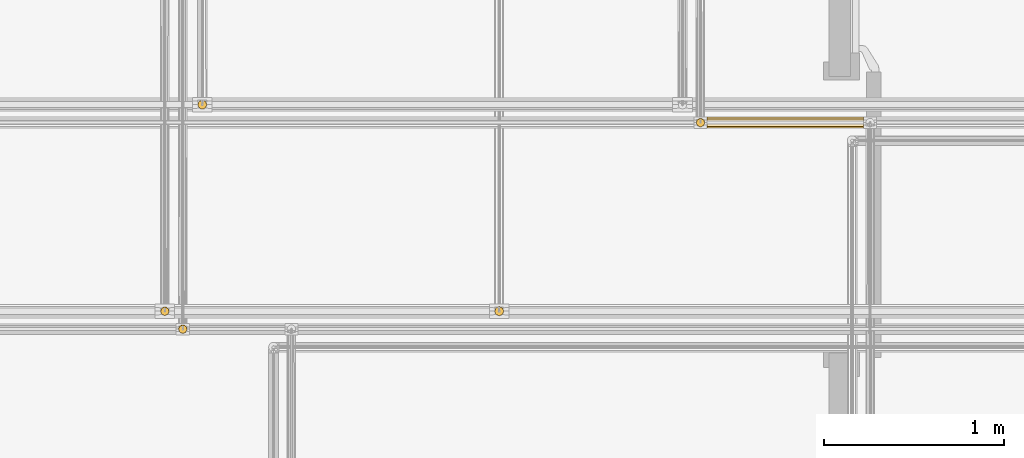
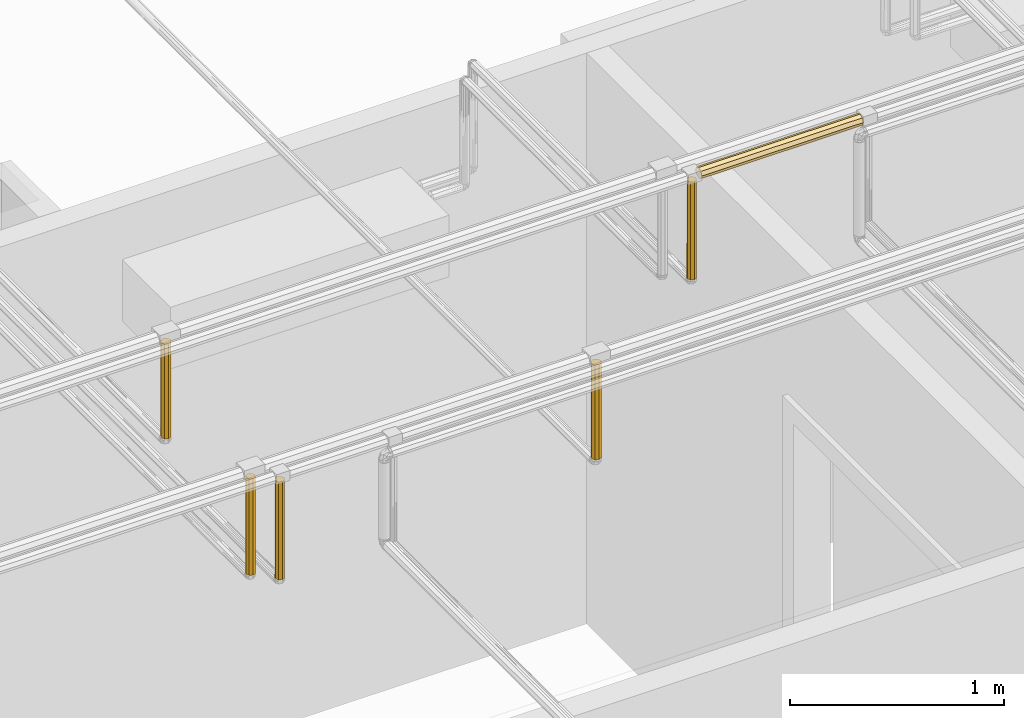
# One storey, part 158 of 652: 6 coverings.
"""IFC2X3 building model written with IfcOpenShell, lengths in millimetres."""

from ifc_helpers import new_model, entity, si_unit, converted_unit, direction, frame, origin, place, context, subcontext, project, spatial, faceted_brep, material, type_object, element, save


model = new_model("IFC2X3")

# Units and contexts
model_context = context("Model", 3, precision=0.01, world=frame((0.0, 0.0, 308426.39999999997)), true_north=direction((6.123233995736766e-17, 1.0)))
plan_context = context("Plan", 3, precision=0.01, world=frame((0.0, 0.0, 308426.39999999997)), true_north=direction((6.123233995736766e-17, 1.0)))
body_context = subcontext(model_context, "Body", "Model", "MODEL_VIEW")
ifc_project = project(units=[si_unit("LENGTHUNIT", "METRE", prefix="MILLI"), si_unit("AREAUNIT", "SQUARE_METRE"), si_unit("VOLUMEUNIT", "CUBIC_METRE"), converted_unit("PLANEANGLEUNIT", "DEGREE", entity("IfcPlaneAngleMeasure", 0.017453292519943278), si_unit("PLANEANGLEUNIT", "RADIAN"), dimensions=[0, 0, 0, 0, 0, 0, 0])], contexts=[model_context, plan_context])

# Site, building, storey
site_placement = place(None, origin())
site = spatial("IfcSite", under=ifc_project, at=site_placement, Name="Default", CompositionType="ELEMENT")
building_placement = place(site_placement, origin())
building = spatial("IfcBuilding", under=site, at=building_placement, CompositionType="ELEMENT")
storey_placement = place(building_placement, frame((0.0, 0.0, 1730.6999999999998)))
storey = spatial("IfcBuildingStorey", under=building, at=storey_placement, Name="EG_Produktion_FFB", CompositionType="ELEMENT", Elevation=1730.6999999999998)

# Coverings
ifc_material = material(Name="Dämmung - Armaflex-Schlauch")
covering_type = type_object("IfcCoveringType", Name="Rohrdämmung außen:Armaflex-Schlauch", PredefinedType="INSULATION")
covering_1_placement = place(storey_placement, frame((24902.836827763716, 60968.29222776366, 3868.292227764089)))
element("IfcCovering", 1, at=covering_1_placement, inside=storey, type_object=covering_type, material=ifc_material, Name="Rohrdämmung außen:Armaflex-Schlauch", ObjectType="Rohrdämmung außen:Armaflex-Schlauch", PredefinedType="INSULATION", context=body_context, shape_type="Brep", body=[
    faceted_brep([(870.1149222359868, 61.82027223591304, 31.707772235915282), (870.1149222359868, 60.09388636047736, 35.87563643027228), (870.1149222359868, 57.410398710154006, 42.354148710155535), (870.1149222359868, 55.205461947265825, 47.677336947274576), (870.1149222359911, 53.000525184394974, 53.000525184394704), (870.1149222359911, 47.67733694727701, 55.2054619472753), (870.1149222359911, 42.35414871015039, 57.410398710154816), (870.1149222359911, 37.03096047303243, 59.615335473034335), (870.1149222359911, 31.70777223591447, 61.820272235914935), (870.1149222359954, 27.539908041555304, 60.09388636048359), (870.1149222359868, 21.061395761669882, 57.410398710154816), (870.1149222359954, 15.738207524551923, 55.2054619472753), (870.1149222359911, 10.415019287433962, 53.000525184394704), (870.1149222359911, 8.21008252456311, 47.67733694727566), (870.1149222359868, 6.005145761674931, 42.354148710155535), (870.1149222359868, 3.800208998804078, 37.03096047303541), (870.1149222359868, 1.5952722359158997, 31.707772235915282), (870.1149222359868, 3.8002089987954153, 26.384583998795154), (870.1149222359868, 6.005145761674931, 21.061395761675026), (870.1149222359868, 8.210082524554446, 15.738207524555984), (870.1149222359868, 10.415019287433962, 10.415019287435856), (870.1149222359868, 15.738207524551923, 8.210082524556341), (870.1149222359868, 21.061395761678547, 6.005145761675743), (870.1149222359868, 26.384583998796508, 3.8002089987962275), (870.1149222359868, 31.70777223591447, 1.595272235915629), (870.1149222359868, 35.87563643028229, 3.321658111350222), (870.1149222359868, 42.35414871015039, 6.005145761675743), (870.1149222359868, 47.67733694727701, 8.210082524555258), (870.1149222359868, 53.000525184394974, 10.415019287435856), (870.1149222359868, 55.20546194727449, 15.7382075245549), (870.1149222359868, 57.410398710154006, 21.061395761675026), (870.1149222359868, 59.615335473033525, 26.384583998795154), (0.0, 47.677336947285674, 8.2100825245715), (0.0, 42.35414871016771, 6.005145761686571), (0.0, 37.03096047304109, 3.800208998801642), (0.0, 31.70777223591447, 1.5952722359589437), (0.0, 23.37204384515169, 5.048043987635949), (0.0, 16.89353156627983, 7.731531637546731), (0.0, 10.415019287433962, 10.41501928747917), (0.0, 8.210082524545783, 15.738207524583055), (0.0, 6.005145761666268, 21.061395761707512), (0.0, 3.8002089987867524, 26.384583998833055), (0.0, 1.5952722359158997, 31.707772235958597), (0.0, 5.048043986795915, 40.04350062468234), (0.0, 7.731531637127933, 46.52201290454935), (0.0, 10.415019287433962, 53.00052518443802), (0.0, 15.738207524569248, 55.205461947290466), (0.0, 21.06139576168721, 57.410398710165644), (0.0, 26.38458399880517, 59.61533547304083), (0.0, 31.70777223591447, 61.82027223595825), (0.0, 40.043500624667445, 58.36750048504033), (0.0, 46.52201290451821, 55.6840128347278), (0.0, 53.000525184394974, 53.00052518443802), (0.0, 55.205461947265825, 47.67733694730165), (0.0, 57.410398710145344, 42.35414871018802), (0.0, 59.61533547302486, 37.03096047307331), (0.0, 61.82027223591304, 31.707772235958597), (0.0, 58.367500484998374, 23.372043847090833), (0.0, 55.684012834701, 16.893531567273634), (0.0, 53.000525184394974, 10.41501928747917)], [[[0, 1, 2, 3, 4, 5, 6, 7, 8, 9, 10, 11, 12, 13, 14, 15, 16, 17, 18, 19, 20, 21, 22, 23, 24, 25, 26, 27, 28, 29, 30, 31]], [[32, 33, 34, 35, 36, 37, 38, 39, 40, 41, 42, 43, 44, 45, 46, 47, 48, 49, 50, 51, 52, 53, 54, 55, 56, 57, 58, 59]], [[40, 39, 38, 20, 19, 18, 17, 16, 42, 41]], [[36, 35, 24, 23, 22, 21, 20, 38, 37]], [[33, 32, 59, 28, 27, 26, 25, 24, 35, 34]], [[28, 59, 58, 57, 56, 0, 31, 30, 29]], [[54, 53, 52, 4, 3, 2, 1, 0, 56, 55]], [[4, 52, 51, 50, 49, 8, 7, 6, 5]], [[47, 46, 45, 12, 11, 10, 9, 8, 49, 48]], [[12, 45, 44, 43, 42, 16, 15, 14, 13]]]),
])
covering_2_placement = place(storey_placement, frame((21858.505862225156, 59924.64222775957, 3316.3549777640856)))
element("IfcCovering", 2, at=covering_2_placement, inside=storey, type_object=covering_type, material=ifc_material, Name="Rohrdämmung außen:Armaflex-Schlauch", ObjectType="Rohrdämmung außen:Armaflex-Schlauch", PredefinedType="INSULATION", context=body_context, shape_type="Brep", body=[
    faceted_brep([(43.90036590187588, 12.75580356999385, 551.3938722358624), (45.64033467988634, 16.956459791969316, 551.3938722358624), (47.38030345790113, 21.15711601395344, 551.3938722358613), (49.12027223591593, 25.357772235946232, 551.3938722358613), (47.38030345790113, 29.55842845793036, 551.3938722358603), (45.64033467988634, 33.75908467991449, 551.3938722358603), (43.90036590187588, 37.95974090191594, 551.3938722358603), (42.16039712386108, 42.16039712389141, 551.3938722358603), (37.959740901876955, 43.900365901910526, 551.3938722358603), (33.759084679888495, 45.64033467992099, 551.3938722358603), (29.55842845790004, 47.380303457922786, 551.3938722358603), (25.357772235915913, 49.12027223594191, 551.3938722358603), (21.157116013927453, 47.380303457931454, 551.3938722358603), (16.956459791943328, 45.64033467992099, 551.3938722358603), (12.755803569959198, 43.900365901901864, 551.3938722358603), (8.55514734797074, 42.16039712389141, 551.3938722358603), (6.815178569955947, 37.959740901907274, 551.3938722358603), (5.075209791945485, 33.75908467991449, 551.3938722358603), (3.5105370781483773, 29.981630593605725, 551.3938722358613), (1.5952722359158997, 25.357772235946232, 551.3938722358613), (3.5105370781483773, 20.733913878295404, 551.3938722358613), (5.075209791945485, 16.956459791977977, 551.3938722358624), (6.815178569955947, 12.75580356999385, 551.3938722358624), (8.55514734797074, 8.55514734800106, 551.3938722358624), (12.755803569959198, 6.815178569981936, 551.3938722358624), (16.956459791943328, 5.075209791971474, 551.3938722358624), (21.157116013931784, 3.335241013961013, 551.3938722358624), (25.357772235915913, 1.5952722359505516, 551.3938722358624), (29.98163059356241, 3.5105370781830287, 551.3938722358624), (33.759084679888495, 5.075209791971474, 551.3938722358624), (37.959740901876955, 6.815178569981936, 551.3938722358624), (42.16039712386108, 8.55514734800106, 551.3938722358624), (3.7416299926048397, 35.22685531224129, 1.5952722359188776), (6.764379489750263, 39.267438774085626, 1.5952722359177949), (9.787128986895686, 43.30802223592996, 1.5952722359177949), (40.92841548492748, 43.30802223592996, 1.5952722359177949), (43.95116498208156, 39.267438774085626, 1.5952722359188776), (46.97391447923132, 35.22685531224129, 1.5952722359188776), (48.047093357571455, 30.292313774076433, 1.5952722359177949), (49.12027223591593, 25.357772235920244, 1.5952722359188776), (47.205007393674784, 20.73391387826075, 1.5952722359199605), (45.289742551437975, 16.110055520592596, 1.5952722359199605), (43.7250698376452, 12.332601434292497, 1.5952722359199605), (42.16039712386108, 8.55514734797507, 1.5952722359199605), (37.95974090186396, 6.815178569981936, 1.5952722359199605), (33.759084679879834, 5.075209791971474, 1.5952722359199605), (29.558428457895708, 3.335241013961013, 1.5952722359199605), (25.357772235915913, 1.5952722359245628, 1.5952722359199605), (20.733913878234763, 3.510537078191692, 1.5952722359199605), (16.11005552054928, 5.425801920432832, 1.5952722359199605), (12.332601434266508, 6.990474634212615, 1.5952722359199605), (8.55514734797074, 8.55514734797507, 1.5952722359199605), (6.815178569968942, 12.755803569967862, 1.5952722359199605), (5.075209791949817, 16.95645979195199, 1.5952722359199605), (3.335241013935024, 21.157116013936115, 1.5952722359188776), (1.5952722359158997, 25.357772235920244, 1.5952722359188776), (2.6684511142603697, 30.2923137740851, 1.5952722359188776), (33.667814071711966, 47.61983887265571, 5.907088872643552), (37.29811477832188, 45.46393055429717, 3.7511805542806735), (29.512793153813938, 48.37005555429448, 6.65730555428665), (25.357772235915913, 49.12027223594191, 7.40752223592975), (21.202751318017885, 48.37005555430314, 6.657305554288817), (17.04773040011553, 47.61983887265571, 5.907088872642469), (13.417429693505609, 45.46393055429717, 3.7511805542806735)], [[[0, 1, 2, 3, 4, 5, 6, 7, 8, 9, 10, 11, 12, 13, 14, 15, 16, 17, 18, 19, 20, 21, 22, 23, 24, 25, 26, 27, 28, 29, 30, 31]], [[32, 33, 34, 35, 36, 37, 38, 39, 40, 41, 42, 43, 44, 45, 46, 47, 48, 49, 50, 51, 52, 53, 54, 55, 56]], [[39, 4, 3]], [[9, 57, 10]], [[4, 39, 38]], [[38, 5, 4]], [[35, 7, 36]], [[8, 35, 58]], [[58, 57, 9]], [[59, 60, 11]], [[37, 36, 6]], [[36, 7, 6]], [[37, 6, 5]], [[10, 57, 59]], [[7, 35, 8]], [[38, 37, 5]], [[58, 9, 8]], [[59, 11, 10]], [[60, 61, 11]], [[55, 19, 56]], [[12, 61, 62]], [[32, 16, 33]], [[63, 13, 62]], [[15, 34, 33]], [[32, 56, 17]], [[17, 56, 19, 18]], [[11, 61, 12]], [[33, 16, 15]], [[32, 17, 16]], [[13, 63, 14]], [[34, 14, 63]], [[12, 62, 13]], [[14, 34, 15]], [[47, 27, 26, 25, 24, 23, 51, 50, 49, 48]], [[22, 21, 20, 19, 55, 54, 53, 52, 51, 23]], [[39, 3, 2, 1, 0, 31, 43, 42, 41, 40]], [[30, 29, 28, 27, 47, 46, 45, 44, 43, 31]], [[57, 58, 35, 34, 63, 62, 61, 60, 59]]]),
])
covering_3_placement = place(storey_placement, frame((21958.505862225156, 59824.6422277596, 3316.3549777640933)))
element("IfcCovering", 3, at=covering_3_placement, inside=storey, type_object=covering_type, material=ifc_material, Name="Rohrdämmung außen:Armaflex-Schlauch", ObjectType="Rohrdämmung außen:Armaflex-Schlauch", PredefinedType="INSULATION", context=body_context, shape_type="Brep", body=[
    faceted_brep([(43.90036590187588, 12.755803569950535, 559.6234722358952), (45.64033467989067, 16.956459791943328, 559.6234722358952), (47.23325303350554, 20.80210488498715, 559.6234722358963), (49.12027223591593, 25.35777223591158, 559.6234722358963), (47.38030345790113, 29.558428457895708, 559.6234722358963), (45.64033467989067, 33.759084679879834, 559.6234722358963), (43.900365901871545, 37.95974090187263, 559.6234722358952), (42.16039712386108, 42.160397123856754, 559.6234722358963), (37.959740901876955, 43.90036590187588, 559.6234722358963), (33.75908467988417, 45.640334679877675, 559.6234722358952), (29.55842845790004, 47.3803034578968, 559.6234722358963), (25.357772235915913, 49.12027223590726, 559.6234722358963), (21.157116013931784, 47.3803034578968, 559.6234722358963), (16.956459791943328, 45.64033467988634, 559.6234722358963), (12.755803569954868, 43.90036590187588, 559.6234722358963), (8.55514734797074, 42.160397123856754, 559.6234722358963), (6.815178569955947, 37.95974090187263, 559.6234722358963), (5.0752097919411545, 33.759084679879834, 559.6234722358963), (3.4822914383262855, 29.913439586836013, 559.6234722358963), (1.5952722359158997, 25.35777223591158, 559.6234722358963), (3.482291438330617, 20.80210488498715, 559.6234722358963), (5.0752097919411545, 16.956459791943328, 559.6234722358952), (6.815178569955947, 12.755803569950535, 559.6234722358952), (8.55514734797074, 8.55514734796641, 559.6234722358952), (12.755803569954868, 6.815178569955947, 559.6234722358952), (16.956459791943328, 5.075209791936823, 559.6234722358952), (20.80210488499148, 3.482291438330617, 559.6234722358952), (25.357772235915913, 1.5952722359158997, 559.6234722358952), (29.913439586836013, 3.482291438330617, 559.6234722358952), (33.759084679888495, 5.075209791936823, 559.6234722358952), (37.959740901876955, 6.815178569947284, 559.6234722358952), (42.16039712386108, 8.55514734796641, 559.6234722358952), (40.928415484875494, 43.30802223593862, 1.5952722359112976), (43.95116498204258, 39.26743877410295, 1.5952722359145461), (46.97391447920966, 35.226855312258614, 1.5952722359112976), (48.04709335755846, 30.2923137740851, 1.5952722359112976), (49.12027223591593, 25.357772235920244, 1.5952722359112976), (47.23325303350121, 20.80210488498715, 1.5952722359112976), (45.34623383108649, 16.246437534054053, 1.5952722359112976), (43.75331547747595, 12.40079244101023, 1.5952722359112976), (42.16039712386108, 8.55514734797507, 1.5952722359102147), (37.959740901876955, 6.815178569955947, 1.5952722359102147), (33.75908467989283, 5.075209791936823, 1.5952722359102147), (29.55842845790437, 3.3352410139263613, 1.5952722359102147), (25.357772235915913, 1.5952722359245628, 1.5952722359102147), (20.80210488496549, 3.48229143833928, 1.5952722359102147), (16.24643753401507, 5.36931064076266, 1.5952722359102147), (12.400792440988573, 6.962228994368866, 1.5952722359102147), (8.55514734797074, 8.55514734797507, 1.5952722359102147), (6.815178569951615, 12.755803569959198, 1.5952722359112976), (5.0752097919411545, 16.956459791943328, 1.5952722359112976), (3.3352410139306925, 21.157116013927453, 1.5952722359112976), (1.5952722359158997, 25.357772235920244, 1.5952722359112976), (2.6684511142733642, 30.2923137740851, 1.5952722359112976), (3.741629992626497, 35.226855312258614, 1.5952722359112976), (6.764379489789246, 39.26743877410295, 1.5952722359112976), (9.787128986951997, 43.30802223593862, 1.5952722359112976), (33.66781407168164, 47.61983887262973, 5.907088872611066), (37.2981147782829, 45.46393055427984, 3.7511805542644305), (29.51279315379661, 48.3700555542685, 6.657305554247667), (25.357772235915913, 49.12027223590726, 7.407522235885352), (21.20275131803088, 48.3700555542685, 6.657305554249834), (17.047730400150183, 47.61983887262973, 5.907088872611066), (13.417429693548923, 45.46393055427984, 3.751180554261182)], [[[0, 1, 2, 3, 4, 5, 6, 7, 8, 9, 10, 11, 12, 13, 14, 15, 16, 17, 18, 19, 20, 21, 22, 23, 24, 25, 26, 27, 28, 29, 30, 31]], [[32, 33, 34, 35, 36, 37, 38, 39, 40, 41, 42, 43, 44, 45, 46, 47, 48, 49, 50, 51, 52, 53, 54, 55, 56]], [[36, 4, 3]], [[9, 57, 10]], [[4, 36, 35]], [[35, 5, 4]], [[32, 7, 33]], [[8, 32, 58]], [[58, 57, 9]], [[59, 60, 11]], [[34, 33, 6]], [[33, 7, 6]], [[34, 6, 5]], [[10, 57, 59]], [[7, 32, 8]], [[35, 34, 5]], [[58, 9, 8]], [[59, 11, 10]], [[60, 61, 11]], [[53, 52, 18]], [[12, 61, 62]], [[54, 16, 55]], [[63, 13, 62]], [[15, 56, 55]], [[54, 53, 17]], [[17, 53, 18]], [[11, 61, 12]], [[55, 16, 15]], [[52, 19, 18]], [[54, 17, 16]], [[13, 63, 14]], [[56, 14, 63]], [[12, 62, 13]], [[14, 56, 15]], [[27, 26, 25, 24, 23, 48, 47, 46, 45, 44]], [[22, 21, 20, 19, 52, 51, 50, 49, 48, 23]], [[3, 2, 1, 0, 31, 40, 39, 38, 37, 36]], [[30, 29, 28, 27, 44, 43, 42, 41, 40, 31]], [[32, 56, 63, 62, 61, 60, 59, 57, 58]]]),
])
covering_4_placement = place(storey_placement, frame((23718.239701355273, 59923.05472775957, 3323.371727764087)))
element("IfcCovering", 4, at=covering_4_placement, inside=storey, type_object=covering_type, material=ifc_material, Name="Rohrdämmung außen:Armaflex-Schlauch", ObjectType="Rohrdämmung außen:Armaflex-Schlauch", PredefinedType="INSULATION", context=body_context, shape_type="Brep", body=[
    faceted_brep([(52.29527223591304, 26.94527223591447, 542.5038722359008), (50.15022265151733, 32.12388003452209, 542.5038722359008), (48.58285068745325, 35.90785068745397, 542.5038722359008), (46.7266399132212, 40.38913991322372, 542.5038722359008), (44.87042913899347, 44.87042913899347, 542.5038722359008), (40.38913991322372, 46.7266399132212, 542.5038722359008), (35.90785068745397, 48.582850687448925, 542.5038722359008), (31.42656146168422, 50.43906146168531, 542.5038722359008), (26.94527223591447, 52.29527223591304, 542.5038722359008), (22.463983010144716, 50.43906146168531, 542.5038722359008), (17.982693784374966, 48.582850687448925, 542.5038722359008), (13.501404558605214, 46.7266399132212, 542.5038722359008), (9.020115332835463, 44.87042913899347, 542.5038722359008), (7.1639045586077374, 40.38913991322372, 542.5038722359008), (5.30769378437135, 35.90785068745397, 542.5038722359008), (3.4514830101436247, 31.42656146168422, 542.5038722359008), (1.5952722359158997, 26.94527223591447, 542.5038722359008), (3.7403217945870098, 21.766664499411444, 542.5038722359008), (5.307693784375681, 17.982693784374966, 542.5038722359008), (7.1639045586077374, 13.501404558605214, 542.5038722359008), (9.020115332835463, 9.020115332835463, 542.5038722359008), (13.501404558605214, 7.163904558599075, 542.5038722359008), (17.982693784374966, 5.307693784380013, 542.5038722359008), (22.463983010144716, 3.4514830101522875, 542.5038722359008), (26.94527223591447, 1.5952722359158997, 542.5038722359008), (32.12387997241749, 3.7403217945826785, 542.5038722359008), (35.90785068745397, 5.307693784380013, 542.5038722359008), (40.38913991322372, 7.1639045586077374, 542.5038722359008), (44.87042913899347, 9.020115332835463, 542.5038722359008), (46.7266399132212, 13.501404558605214, 542.5038722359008), (48.58285068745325, 17.982693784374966, 542.5038722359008), (50.43906146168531, 22.463983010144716, 542.5038722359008), (31.33519376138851, 51.91227223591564, 1.595272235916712), (38.84516070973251, 47.5816860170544, 1.595272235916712), (46.355127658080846, 43.251099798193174, 1.595272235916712), (48.437184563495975, 37.53580778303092, 1.595272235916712), (50.366228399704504, 32.240540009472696, 1.595272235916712), (52.29527223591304, 26.94527223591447, 1.595272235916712), (50.15022267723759, 21.76666449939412, 1.595272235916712), (48.005173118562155, 16.588056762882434, 1.595272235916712), (44.87042913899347, 9.020115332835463, 1.595272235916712), (40.38913991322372, 7.1639045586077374, 1.595272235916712), (35.90785068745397, 5.307693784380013, 1.595272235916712), (31.42656146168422, 3.4514830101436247, 1.595272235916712), (26.94527223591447, 1.5952722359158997, 1.595272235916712), (21.766664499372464, 3.7403217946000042, 1.595272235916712), (16.58805676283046, 5.885371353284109, 1.595272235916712), (9.020115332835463, 9.020115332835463, 1.595272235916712), (7.163904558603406, 13.501404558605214, 1.595272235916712), (5.307693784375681, 17.982693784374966, 1.595272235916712), (3.4514830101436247, 22.463983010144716, 1.595272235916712), (1.5952722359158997, 26.94527223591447, 1.595272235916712), (3.5243160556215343, 32.2405399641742, 1.595272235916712), (4.565344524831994, 35.09818601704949, 1.595272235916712), (6.0503806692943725, 39.17464290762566, 1.595272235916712), (7.535416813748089, 43.251099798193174, 1.595272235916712), (15.045383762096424, 47.5816860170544, 1.595272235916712), (22.55535071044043, 51.91227223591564, 1.595272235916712), (29.148570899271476, 52.19934072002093, 1.8823407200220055), (26.94527223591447, 52.29527223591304, 1.978272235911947), (24.74197357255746, 52.19934072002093, 1.8823407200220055)], [[[0, 1, 2, 3, 4, 5, 6, 7, 8, 9, 10, 11, 12, 13, 14, 15, 16, 17, 18, 19, 20, 21, 22, 23, 24, 25, 26, 27, 28, 29, 30, 31]], [[32, 33, 34, 35, 36, 37, 38, 39, 40, 41, 42, 43, 44, 45, 46, 47, 48, 49, 50, 51, 52, 53, 54, 55, 56, 57]], [[3, 2, 35]], [[35, 2, 36]], [[36, 2, 1, 0]], [[58, 7, 32]], [[33, 32, 6]], [[35, 34, 3]], [[8, 58, 59]], [[33, 6, 5, 4]], [[7, 6, 32]], [[34, 4, 3]], [[33, 4, 34]], [[36, 0, 37]], [[7, 58, 8]], [[57, 10, 9]], [[54, 53, 14]], [[9, 60, 57]], [[10, 57, 56]], [[54, 14, 13]], [[51, 16, 15]], [[53, 15, 14]], [[13, 55, 54]], [[56, 12, 11, 10]], [[15, 53, 52, 51]], [[60, 8, 59]], [[12, 56, 55]], [[12, 55, 13]], [[8, 60, 9]], [[44, 24, 23, 22, 21, 20, 47, 46, 45]], [[19, 18, 17, 16, 51, 50, 49, 48, 47, 20]], [[37, 0, 31, 30, 29, 28, 40, 39, 38]], [[27, 26, 25, 24, 44, 43, 42, 41, 40, 28]], [[57, 60, 59, 58, 32]]]),
])
covering_5_placement = place(storey_placement, frame((24840.430805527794, 60974.642227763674, 3316.3549777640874)))
element("IfcCovering", 5, at=covering_5_placement, inside=storey, type_object=covering_type, material=ifc_material, Name="Rohrdämmung außen:Armaflex-Schlauch", ObjectType="Rohrdämmung außen:Armaflex-Schlauch", PredefinedType="INSULATION", context=body_context, shape_type="Brep", body=[
    faceted_brep([(43.90036590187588, 12.755803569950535, 559.6234722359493), (45.64033467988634, 16.956459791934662, 559.6234722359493), (47.23325303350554, 20.80210488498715, 559.6234722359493), (49.12027223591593, 25.35777223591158, 559.6234722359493), (47.38030345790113, 29.55842845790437, 559.6234722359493), (45.64033467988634, 33.759084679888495, 559.6234722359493), (43.90036590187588, 37.95974090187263, 559.6234722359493), (42.16039712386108, 42.160397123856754, 559.6234722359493), (37.95974090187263, 43.90036590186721, 559.6234722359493), (33.759084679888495, 45.640334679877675, 559.6234722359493), (29.55842845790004, 47.38030345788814, 559.6234722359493), (25.357772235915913, 49.12027223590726, 559.6234722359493), (21.157116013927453, 47.3803034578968, 559.6234722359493), (16.956459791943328, 45.640334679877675, 559.6234722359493), (12.755803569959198, 43.90036590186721, 559.6234722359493), (8.55514734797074, 42.160397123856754, 559.6234722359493), (6.815178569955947, 37.95974090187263, 559.6234722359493), (5.075209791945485, 33.759084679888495, 559.6234722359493), (3.482291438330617, 29.913439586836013, 559.6234722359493), (1.5952722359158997, 25.35777223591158, 559.6234722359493), (3.482291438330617, 20.80210488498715, 559.6234722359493), (5.075209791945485, 16.956459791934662, 559.6234722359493), (6.815178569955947, 12.755803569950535, 559.6234722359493), (8.55514734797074, 8.55514734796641, 559.6234722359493), (12.755803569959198, 6.815178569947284, 559.6234722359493), (16.956459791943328, 5.075209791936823, 559.6234722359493), (20.80210488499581, 3.482291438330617, 559.6234722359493), (25.357772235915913, 1.5952722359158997, 559.6234722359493), (29.913439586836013, 3.482291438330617, 559.6234722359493), (33.759084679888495, 5.075209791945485, 559.6234722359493), (37.95974090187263, 6.815178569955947, 559.6234722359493), (42.16039712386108, 8.55514734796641, 559.6234722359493), (40.928415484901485, 43.30802223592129, 1.595272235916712), (43.9511649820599, 39.26743877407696, 1.595272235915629), (46.97391447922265, 35.22685531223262, 1.595272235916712), (48.04709335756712, 30.292313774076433, 1.595272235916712), (49.12027223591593, 25.35777223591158, 1.595272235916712), (47.23325303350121, 20.802104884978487, 1.595272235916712), (45.346233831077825, 16.24643753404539, 1.595272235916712), (43.753315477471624, 12.40079244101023, 1.595272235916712), (42.16039712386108, 8.55514734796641, 1.595272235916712), (37.95974090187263, 6.815178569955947, 1.595272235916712), (33.759084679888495, 5.075209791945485, 1.595272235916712), (29.55842845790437, 3.335241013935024, 1.595272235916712), (25.357772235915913, 1.5952722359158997, 1.595272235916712), (20.80210488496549, 3.48229143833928, 1.595272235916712), (16.24643753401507, 5.369310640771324, 1.595272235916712), (12.400792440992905, 6.962228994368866, 1.595272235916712), (8.55514734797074, 8.55514734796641, 1.595272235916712), (6.815178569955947, 12.755803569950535, 1.595272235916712), (5.075209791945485, 16.956459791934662, 1.595272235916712), (3.3352410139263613, 21.157116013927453, 1.595272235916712), (1.5952722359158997, 25.35777223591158, 1.595272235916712), (2.6684511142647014, 30.292313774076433, 1.595272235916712), (3.7416299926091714, 35.22685531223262, 1.595272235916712), (6.764379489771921, 39.26743877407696, 1.595272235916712), (9.78712898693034, 43.30802223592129, 1.595272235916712), (33.667814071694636, 47.61983887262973, 5.907088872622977), (37.2981147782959, 45.46393055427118, 3.751180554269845), (29.512793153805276, 48.3700555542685, 6.657305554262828), (25.357772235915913, 49.12027223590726, 7.407522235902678), (21.20275131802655, 48.37005555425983, 6.657305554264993), (17.047730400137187, 47.61983887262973, 5.907088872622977), (13.417429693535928, 45.46393055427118, 3.751180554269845)], [[[0, 1, 2, 3, 4, 5, 6, 7, 8, 9, 10, 11, 12, 13, 14, 15, 16, 17, 18, 19, 20, 21, 22, 23, 24, 25, 26, 27, 28, 29, 30, 31]], [[32, 33, 34, 35, 36, 37, 38, 39, 40, 41, 42, 43, 44, 45, 46, 47, 48, 49, 50, 51, 52, 53, 54, 55, 56]], [[36, 4, 3]], [[9, 57, 10]], [[4, 36, 35]], [[35, 5, 4]], [[32, 7, 33]], [[8, 32, 58]], [[58, 57, 9]], [[59, 60, 11]], [[34, 33, 6]], [[33, 7, 6]], [[34, 6, 5]], [[10, 57, 59]], [[7, 32, 8]], [[35, 34, 5]], [[58, 9, 8]], [[59, 11, 10]], [[60, 61, 11]], [[53, 52, 18]], [[12, 61, 62]], [[54, 16, 55]], [[63, 13, 62]], [[15, 56, 55]], [[54, 53, 17]], [[17, 53, 18]], [[11, 61, 12]], [[55, 16, 15]], [[52, 19, 18]], [[54, 17, 16]], [[13, 63, 14]], [[56, 14, 63]], [[12, 62, 13]], [[14, 56, 15]], [[27, 26, 25, 24, 23, 48, 47, 46, 45, 44]], [[22, 21, 20, 19, 52, 51, 50, 49, 48, 23]], [[3, 2, 1, 0, 31, 40, 39, 38, 37, 36]], [[30, 29, 28, 27, 44, 43, 42, 41, 40, 31]], [[57, 58, 32, 56, 63, 62, 61, 60, 59]]]),
])
covering_6_placement = place(storey_placement, frame((22065.367160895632, 61073.05472776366, 3323.3717277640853)))
element("IfcCovering", 6, at=covering_6_placement, inside=storey, type_object=covering_type, material=ifc_material, Name="Rohrdämmung außen:Armaflex-Schlauch", ObjectType="Rohrdämmung außen:Armaflex-Schlauch", PredefinedType="INSULATION", context=body_context, shape_type="Brep", body=[
    faceted_brep([(52.29527223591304, 26.94527223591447, 542.5038722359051), (50.15022265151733, 32.12388003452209, 542.5038722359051), (48.58285068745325, 35.90785068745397, 542.5038722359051), (46.72663991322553, 40.389139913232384, 542.5038722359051), (44.87042913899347, 44.87042913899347, 542.5038722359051), (40.38913991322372, 46.72663991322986, 542.5038722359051), (35.90785068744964, 48.582850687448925, 542.5038722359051), (31.42656146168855, 50.43906146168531, 542.5038722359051), (26.94527223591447, 52.29527223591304, 542.5038722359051), (22.463983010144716, 50.43906146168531, 542.5038722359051), (17.982693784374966, 48.582850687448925, 542.5038722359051), (13.501404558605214, 46.7266399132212, 542.5038722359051), (9.020115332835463, 44.87042913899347, 542.5038722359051), (7.163904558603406, 40.38913991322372, 542.5038722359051), (5.307693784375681, 35.90785068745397, 542.5038722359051), (3.4514830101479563, 31.42656146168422, 542.5038722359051), (1.5952722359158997, 26.94527223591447, 542.5038722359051), (3.7403217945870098, 21.766664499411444, 542.5038722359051), (5.307693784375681, 17.982693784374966, 542.5038722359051), (7.163904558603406, 13.501404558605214, 542.5038722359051), (9.020115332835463, 9.020115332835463, 542.5038722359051), (13.501404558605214, 7.163904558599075, 542.5038722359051), (17.982693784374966, 5.307693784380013, 542.5038722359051), (22.463983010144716, 3.4514830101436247, 542.5038722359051), (26.94527223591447, 1.5952722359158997, 542.5038722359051), (32.123879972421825, 3.7403217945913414, 542.5038722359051), (35.90785068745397, 5.307693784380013, 542.5038722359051), (40.38913991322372, 7.1639045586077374, 542.5038722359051), (44.87042913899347, 9.020115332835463, 542.5038722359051), (46.7266399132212, 13.501404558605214, 542.5038722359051), (48.58285068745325, 17.982693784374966, 542.5038722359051), (50.43906146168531, 22.463983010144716, 542.5038722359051), (31.33519376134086, 51.9122722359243, 1.5952722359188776), (38.84516070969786, 47.58168601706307, 1.5952722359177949), (46.35512765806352, 43.2510997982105, 1.5952722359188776), (48.43718456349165, 37.53580778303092, 1.5952722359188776), (50.36622839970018, 32.240540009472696, 1.5952722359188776), (52.29527223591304, 26.94527223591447, 1.5952722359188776), (50.15022267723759, 21.76666449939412, 1.5952722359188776), (48.005173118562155, 16.588056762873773, 1.5952722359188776), (44.87042913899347, 9.020115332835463, 1.5952722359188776), (40.38913991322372, 7.1639045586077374, 1.5952722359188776), (35.90785068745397, 5.307693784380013, 1.5952722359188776), (31.42656146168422, 3.4514830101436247, 1.5952722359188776), (26.94527223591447, 1.5952722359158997, 1.5952722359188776), (21.766664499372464, 3.740321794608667, 1.5952722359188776), (16.588056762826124, 5.885371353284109, 1.5952722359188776), (9.020115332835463, 9.020115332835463, 1.5952722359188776), (7.163904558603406, 13.501404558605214, 1.5952722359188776), (5.307693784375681, 17.982693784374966, 1.5952722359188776), (3.4514830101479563, 22.463983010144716, 1.5952722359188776), (1.5952722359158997, 26.94527223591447, 1.5952722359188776), (3.524316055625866, 32.240539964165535, 1.5952722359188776), (4.565344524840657, 35.098186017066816, 1.5952722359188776), (6.050380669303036, 39.17464290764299, 1.5952722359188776), (7.535416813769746, 43.2510997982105, 1.5952722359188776), (15.045383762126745, 47.58168601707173, 1.5952722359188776), (22.555350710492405, 51.9122722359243, 1.5952722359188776), (29.14857089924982, 52.19934072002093, 1.8823407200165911), (26.94527223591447, 52.29527223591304, 1.9782722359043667), (24.741973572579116, 52.19934072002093, 1.8823407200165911)], [[[0, 1, 2, 3, 4, 5, 6, 7, 8, 9, 10, 11, 12, 13, 14, 15, 16, 17, 18, 19, 20, 21, 22, 23, 24, 25, 26, 27, 28, 29, 30, 31]], [[32, 33, 34, 35, 36, 37, 38, 39, 40, 41, 42, 43, 44, 45, 46, 47, 48, 49, 50, 51, 52, 53, 54, 55, 56, 57]], [[3, 2, 35]], [[35, 2, 36]], [[36, 2, 1, 0]], [[58, 7, 32]], [[33, 32, 6]], [[35, 34, 3]], [[8, 58, 59]], [[33, 6, 5, 4]], [[7, 6, 32]], [[34, 4, 3]], [[33, 4, 34]], [[36, 0, 37]], [[7, 58, 8]], [[57, 10, 9]], [[54, 53, 14]], [[9, 60, 57]], [[10, 57, 56]], [[54, 14, 13]], [[51, 16, 15]], [[53, 15, 14]], [[13, 55, 54]], [[56, 12, 11, 10]], [[15, 53, 52, 51]], [[60, 8, 59]], [[12, 56, 55]], [[12, 55, 13]], [[8, 60, 9]], [[44, 24, 23, 22, 21, 20, 47, 46, 45]], [[19, 18, 17, 16, 51, 50, 49, 48, 47, 20]], [[37, 0, 31, 30, 29, 28, 40, 39, 38]], [[27, 26, 25, 24, 44, 43, 42, 41, 40, 28]], [[57, 60, 59, 58, 32]]]),
])

save(model, "model.ifc")
